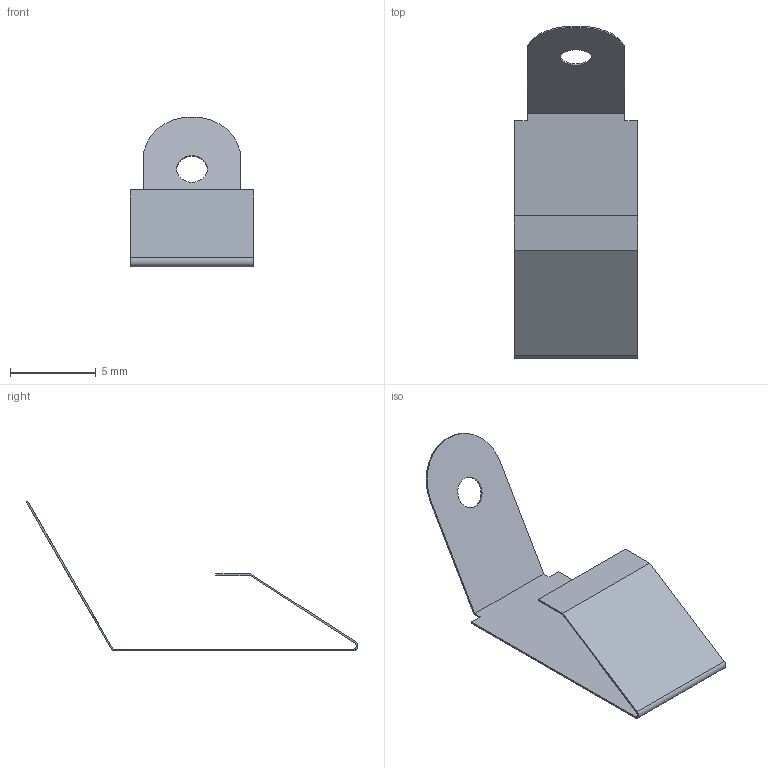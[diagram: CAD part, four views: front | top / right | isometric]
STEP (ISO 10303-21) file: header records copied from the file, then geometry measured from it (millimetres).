
FILE_DESCRIPTION (( 'STEP AP214' ), '1' );
FILE_NAME ('Conector electric PP26.STEP', '2018-07-02T07:50:36', ( 'aaa' ), ( '' ), 'SwSTEP 2.0', 'SolidWorks 2013', '' );
FILE_SCHEMA (( 'AUTOMOTIVE_DESIGN' ));
Length unit declared in the file: millimetre
Products named in the file (1): Conector electric PP26
Bounding box: 7.2 x 19.39 x 8.76 mm (x, y, z)
Volume: 22.3 mm3; surface area: 454.8 mm2
Topology: 1 solids, 1 shells, 22 faces, 60 edges, 40 vertices
Faces by surface type: plane 16, cylinder 6
Entity records: 734 total; most frequent: CARTESIAN_POINT 123, ORIENTED_EDGE 120, DIRECTION 118, EDGE_CURVE 60, VECTOR 48, LINE 48, VERTEX_POINT 40, AXIS2_PLACEMENT_3D 35
